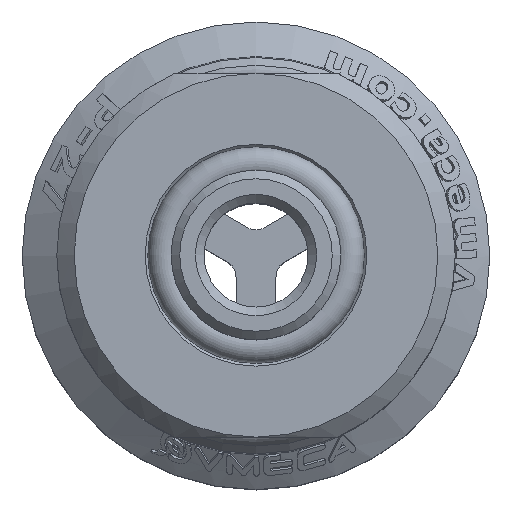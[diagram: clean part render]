
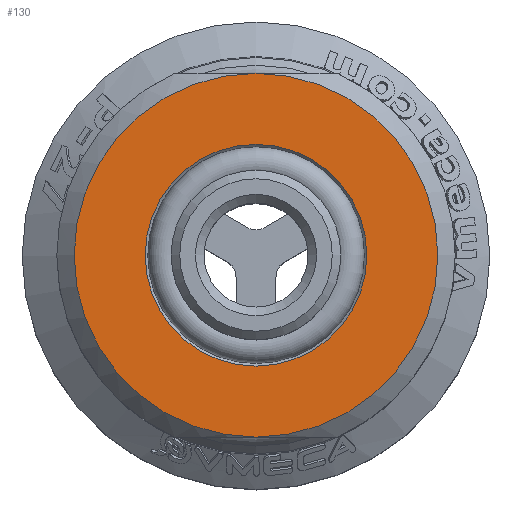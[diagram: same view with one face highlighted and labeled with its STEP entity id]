
A CAD part, top view. The second image highlights one B-rep face of the part: STEP entity #130.
In plain terms, the highlighted planar face has unit normal (0, 0, 1).
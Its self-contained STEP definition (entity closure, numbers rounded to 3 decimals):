
#130 = ADVANCED_FACE( '', ( #254, #255 ), #256, .F. );
#254 = FACE_OUTER_BOUND( '', #435, .T. );
#255 = FACE_BOUND( '', #436, .T. );
#256 = PLANE( '', #437 );
#435 = EDGE_LOOP( '', ( #1145, #1146 ) );
#436 = EDGE_LOOP( '', ( #1147 ) );
#437 = AXIS2_PLACEMENT_3D( '', #1148, #1149, #1150 );
#1145 = ORIENTED_EDGE( '', *, *, #2617, .F. );
#1146 = ORIENTED_EDGE( '', *, *, #2618, .F. );
#1147 = ORIENTED_EDGE( '', *, *, #2619, .T. );
#1148 = CARTESIAN_POINT( '', ( -6.4, 0., 3.683 ) );
#1149 = DIRECTION( '', ( 0., 0., -1. ) );
#1150 = DIRECTION( '', ( -1., 0., 0. ) );
#2617 = EDGE_CURVE( '', #6738, #6739, #6740, .T. );
#2618 = EDGE_CURVE( '', #6739, #6738, #6741, .T. );
#2619 = EDGE_CURVE( '', #6742, #6742, #6743, .T. );
#6738 = VERTEX_POINT( '', #10637 );
#6739 = VERTEX_POINT( '', #10638 );
#6740 = CIRCLE( '', #10639, 10.5 );
#6741 = CIRCLE( '', #10640, 10.5 );
#6742 = VERTEX_POINT( '', #10641 );
#6743 = CIRCLE( '', #10642, 6.4 );
#10637 = CARTESIAN_POINT( '', ( 0., 10.5, 3.683 ) );
#10638 = CARTESIAN_POINT( '', ( 0., -10.5, 3.683 ) );
#10639 = AXIS2_PLACEMENT_3D( '', #12182, #12183, #12184 );
#10640 = AXIS2_PLACEMENT_3D( '', #12185, #12186, #12187 );
#10641 = CARTESIAN_POINT( '', ( -6.4, 0., 3.683 ) );
#10642 = AXIS2_PLACEMENT_3D( '', #12188, #12189, #12190 );
#12182 = CARTESIAN_POINT( '', ( 0., 0., 3.683 ) );
#12183 = DIRECTION( '', ( 0., 0., -1. ) );
#12184 = DIRECTION( '', ( -1., 0., 0. ) );
#12185 = CARTESIAN_POINT( '', ( 0., 0., 3.683 ) );
#12186 = DIRECTION( '', ( 0., 0., -1. ) );
#12187 = DIRECTION( '', ( -1., 0., 0. ) );
#12188 = CARTESIAN_POINT( '', ( 0., 0., 3.683 ) );
#12189 = DIRECTION( '', ( 0., 0., -1. ) );
#12190 = DIRECTION( '', ( -1., 0., 0. ) );
